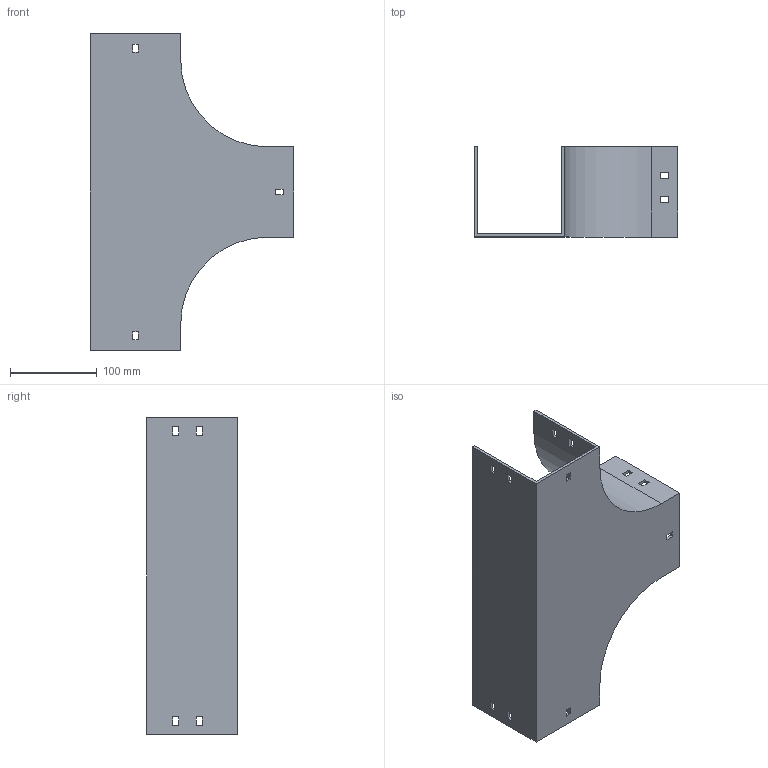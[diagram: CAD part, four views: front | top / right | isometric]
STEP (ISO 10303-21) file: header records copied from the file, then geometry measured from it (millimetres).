
FILE_DESCRIPTION (( 'STEP AP214' ), '1' );
FILE_NAME ('15F1D100.step', '2025-02-21T13:03:34', ( '' ), ( '' ), 'SwSTEP 2.0', 'SolidWorks 2023', '' );
FILE_SCHEMA (( 'AUTOMOTIVE_DESIGN' ));
Length unit declared in the file: millimetre
Products named in the file (1): 15F1D100
Bounding box: 234 x 104 x 364 mm (x, y, z)
Volume: 473970.2 mm3; surface area: 278589.7 mm2
Topology: 1 solids, 1 shells, 82 faces, 240 edges, 160 vertices
Faces by surface type: plane 78, cylinder 4
Entity records: 2755 total; most frequent: CARTESIAN_POINT 483, ORIENTED_EDGE 480, DIRECTION 414, EDGE_CURVE 240, LINE 232, VECTOR 232, VERTEX_POINT 160, EDGE_LOOP 112
